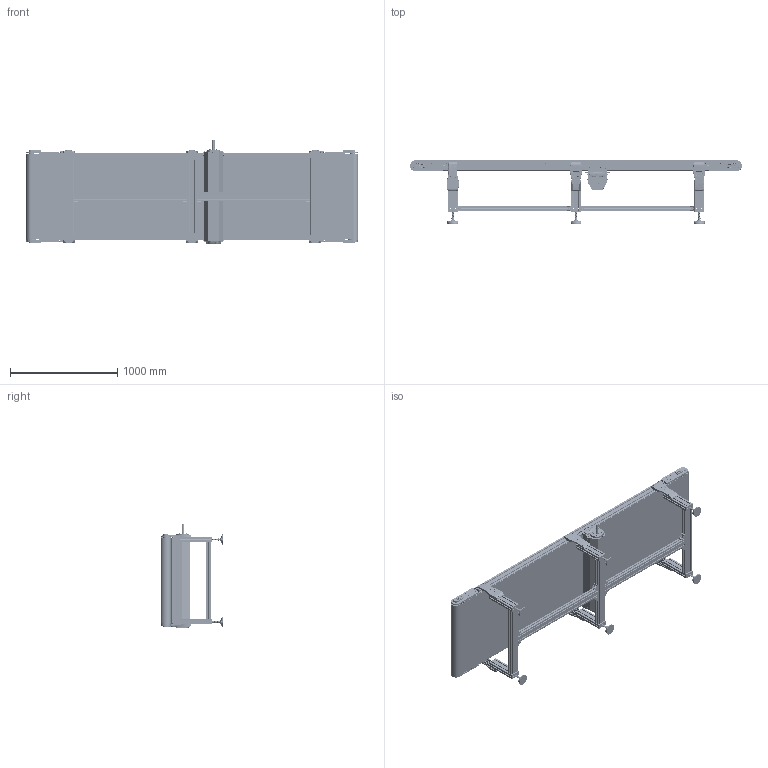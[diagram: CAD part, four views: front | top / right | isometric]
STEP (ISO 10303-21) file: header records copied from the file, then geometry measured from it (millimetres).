
FILE_DESCRIPTION (( 'STEP AP203' ), '1' );
FILE_NAME ('NASTRO_RETTILINEO_TAPPETO.step', '2026-04-29T13:50:33', ( 'Utente Windows' ), ( '' ), 'SwSTEP 2.0', 'SolidWorks 2024', '' );
FILE_SCHEMA (( 'CONFIG_CONTROL_DESIGN' ));
Length unit declared in the file: millimetre
Products named in the file (73): 084.802.003; VITI TSEI UNI 5933_M8x16 UNI 5933; VITI TE UNI 5739_M6x12 UNI 5739; PIEDE_95; BLOCCO_REGGITAPPETO; DADI ESAGONALI NORMALI UNI 5588_M6 UNI 5588; 2010.000.072_L_Default<A macchina>; NASTRO_RETTILINEO_TAPPETO; LAMIERA_STANDARD; 084.802.020; GUIDA_CINGHIA_Z_95; 084.302.000 DADI ALUSIC 13x13-1_084.302.004; TRAVERSA_50-95_CENTRALE_Default<A macchina>; 084.305.003-1; VITE_DADO_M5X12; RULLO_TENSIONAMENTO_50-95_CENTRALE; 084.201.019; 084.802.014; 084.802.064; FLANGIA_GAMBA_95_CON GIUNTI; 084.302.000 DADI ALUSIC 13x13-1_084.302.007; 084.802.013-2; GAMBE_D95_Default<A macchina>; 084.301.000 VITI ALUSIC_084.301.003; VITI TSEI UNI 5933_M4x12 UNI 5933; 084.802.019_084.802.019; PERNO_95_TRAINO_CENT_CINGHIE_49_DX_Default<A macchina>; BLOCCO_TRAINO_50-95_CENTRALE_49; TAPPETO_CENTRALE_CINGHIE; VITI TE UNI 5739_M10x25 UNI 5739; 084.802.071; VITI TSEI UNI 5933_M6x12 UNI 5933; 084.802.021; VITI TE UNI 5739_M6x50 UNI 5739; 084.302.000 DADI ALUSIC 13x13_084.302.015; 084.802.017_084.802.017; TRAVERSA_95_Default<A macchina>; 084.802.004-1; BLOCCO_TRAINO_50-95_CENTRALE; 084.402.005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
Assembly tree (252 placements, depth 4):
  NASTRO_RETTILINEO_TAPPETO
    TAPPETO_CENTRALE_CINGHIE
    TELAIO_95_CINGHIE_Default<A macchina>
    LAMIERA_STANDARD  x2
    RULLO_95_CINGHIE_Default<A macchina>  x3
    PERNO_95_RINVIO_CINGHIE  x2
    BLOCCO_RINVIO_95_STANDARD_CON TENDINASTRO E CARTER  x4
      084.808.002_084.808.002
      084.803.003
      084.302.060
      084.802.019_084.802.019
      VITI TSEI UNI 5933_M4x12 UNI 5933
      084.302.000 DADI ALUSIC 13x13-1_084.302.004
      084.301.000 VITI ALUSIC_084.301.003
      084.802.071
    GUIDA_CINGHIA_Z_95  x6
      449.014.106
      DADO ESAGONALE M30 AUTOBLOCCANTE UNI 7473_M30 UNI 7473
    BLOCCO_TRAINO_50-95_CENTRALE_49
      084.802.021
      084.802.004-1  x2
      084.802.003
      084.802.011
      084.302.017
      VITI TSEI UNI 5933_M8x20 UNI 5933  x4
      VITI TSEI UNI 5933_M8x16 UNI 5933  x3
      VITI TE UNI 5739_M6x50 UNI 5739  x2
      DADI ESAGONALI NORMALI UNI 5588_M6 UNI 5588  x2
      VITI TE UNI 5739_M6x16 UNI 5739  x2
      RONDELLE UNI 6592_6.4x12.5 UNI 6592  x2
      VITI TSEI UNI 5933_M6x12 UNI 5933  x4
      VITI TE UNI 5739_M10x25 UNI 5739  x4
      084.802.070
    BLOCCO_TRAINO_50-95_CENTRALE
      084.802.004-1  x2
      084.802.020
      084.802.003
      VITI TSEI UNI 5933_M8x20 UNI 5933  x4
      VITI TSEI UNI 5933_M6x12 UNI 5933  x6
      RONDELLE UNI 6592_8.4x17 UNI 6592  x2
      VITI TE UNI 5739_M8x12 UNI 5739  x2
      VITI TE UNI 5739_M6x16 UNI 5739  x2
      084.302.017
      RONDELLE UNI 6592_6.4x12.5 UNI 6592  x2
      VITI TE UNI 5739_M6x50 UNI 5739  x2
      DADI ESAGONALI NORMALI UNI 5588_M6 UNI 5588  x2
      084.802.064
    PERNO_95_TRAINO_CENT_CINGHIE_49_DX_Default<A macchina>
    CARTER_50-95_CINGHIE_CENTRALE
    RULLO_TENSIONAMENTO_50-95_CENTRALE  x2
    PERNO_TENSIONAMENTO_50-95_CENTRALE  x2
    TRAVERSA_50-95_CENTRALE_Default<A macchina>  x2
    VITE_DADO_M6X12  x4
      084.302.000 DADI ALUSIC 13x13_084.302.015
      VITI TE UNI 5739_M6x12 UNI 5739
      RONDELLE UNI 6592_6.4x12.5 UNI 6592
    GAMBE_D95_Default<A macchina>  x3
    FLANGIA_GAMBA_95_CON GIUNTI
      2010.000.072
        2010.000.072_L_Default<A macchina>
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Bounding box: 3099 x 588 x 977.75 mm (x, y, z)
Volume: 52673985 mm3; surface area: 36304331.4 mm2
Topology: 549 solids, 555 shells, 24480 faces, 63223 edges, 40229 vertices
Faces by surface type: plane 10700, cylinder 6811, bspline 2841, cone 2381, torus 1564, sphere 183
Entity records: 279366 total; most frequent: CARTESIAN_POINT 107633, ORIENTED_EDGE 35348, DIRECTION 30619, EDGE_CURVE 17674, VERTEX_POINT 11335, AXIS2_PLACEMENT_3D 10409, LINE 9801, VECTOR 9801
